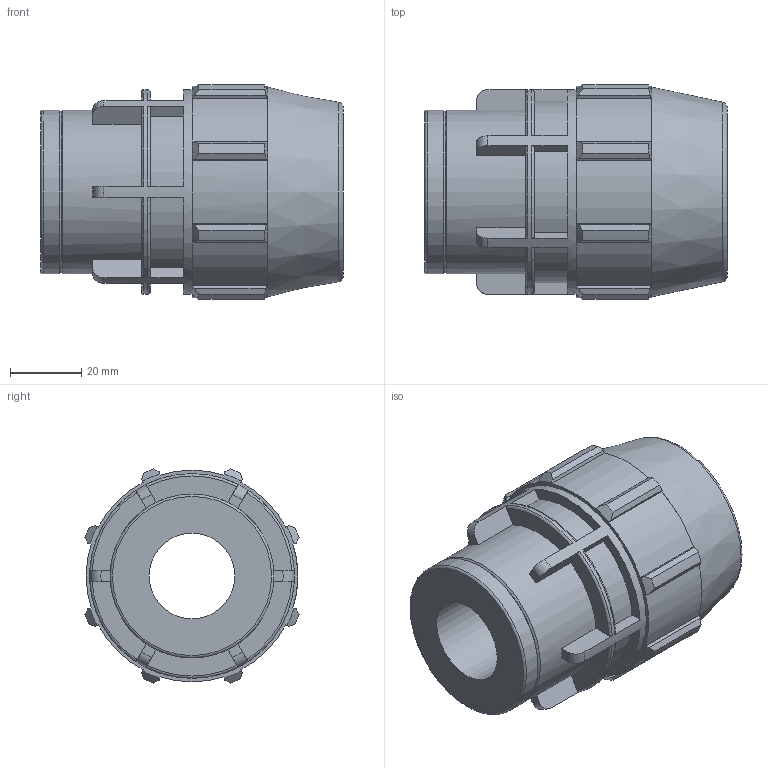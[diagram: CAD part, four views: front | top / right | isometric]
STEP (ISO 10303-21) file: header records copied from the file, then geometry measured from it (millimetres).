
FILE_DESCRIPTION(/* description */ ('PLASSON FEMALE ADAPTOR 1'''' - 3/4''''F'),/* implementation_level */ '2;1');
FILE_NAME(/* name */ 'C:\Dropbox\KIMPROJECTS-Inventor 2019\99-16-3568-Processing Inch\ASTM Compression 2021\0703M0\0703M0010007.ipt.stp',/* time_stamp */ '2021-08-26T12:30:41+03:00',/* author */ ('KIM'),/* organization */ (''),/* preprocessor_version */ 'ST-DEVELOPER v17.2',/* originating_system */ 'Autodesk Inventor 2019',/* authorisation */ '');
FILE_SCHEMA (('AUTOMOTIVE_DESIGN { 1 0 10303 214 3 1 1 }'));
Length unit declared in the file: inch
Products named in the file (1): 0703M0010007
Bounding box: 85.09 x 60.23 x 60.23 mm (x, y, z)
Volume: 124620.3 mm3; surface area: 29431.6 mm2
Topology: 1 solids, 1 shells, 148 faces, 420 edges, 284 vertices
Faces by surface type: plane 86, cylinder 28, torus 20, cone 14
Full cylindrical faces by diameter (mm): 24.117 x1, 26.64 x1, 33.3 x1, 46.086 x2, 57.607 x1
Entity records: 5308 total; most frequent: CARTESIAN_POINT 1241, ORIENTED_EDGE 840, DIRECTION 798, EDGE_CURVE 420, AXIS2_PLACEMENT_3D 297, VERTEX_POINT 284, LINE 204, VECTOR 204
